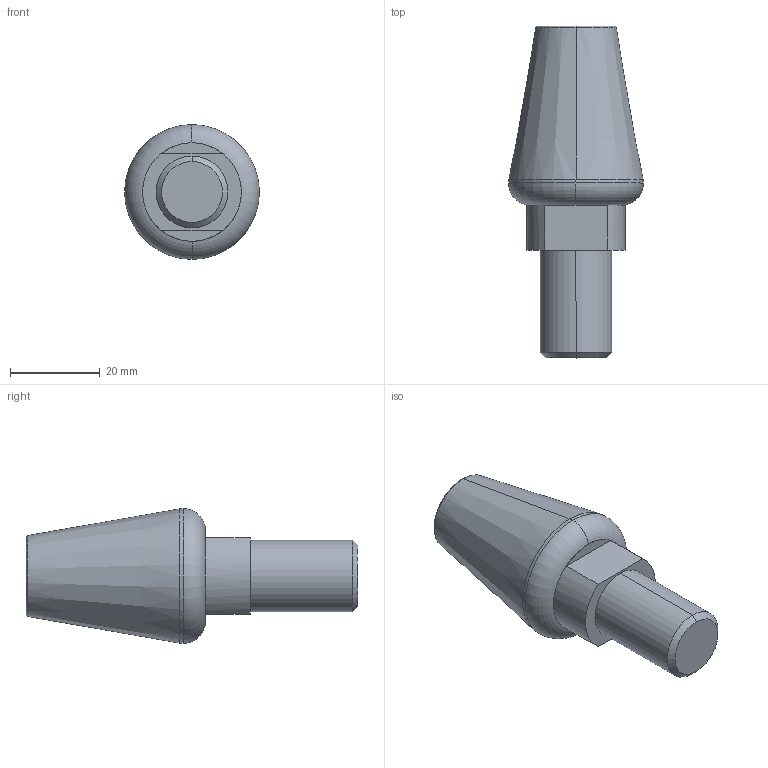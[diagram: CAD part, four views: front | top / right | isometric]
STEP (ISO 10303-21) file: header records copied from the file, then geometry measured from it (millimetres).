
FILE_DESCRIPTION(('CATIA V5 STEP Exchange'),'2;1');
FILE_NAME('C:\Users\Raffaele\Desktop\3D X SITO CF\384F\GSB_OILLESS_M31102016074\STEP-2.03\384F-2.stp','2019-07-05T08:41:07+00:00',('none'),('none'),'CATIA Version 5 Release 20 GA (IN-10)','CATIA V5 STEP AP203','none');
FILE_SCHEMA(('CONFIG_CONTROL_DESIGN'));
Length unit declared in the file: millimetre
Products named in the file (1): 384F-2
Bounding box: 30.08 x 74 x 30.08 mm (x, y, z)
Volume: 27127.1 mm3; surface area: 5902 mm2
Topology: 1 solids, 1 shells, 35 faces, 94 edges, 61 vertices
Faces by surface type: plane 19, cone 6, torus 6, cylinder 4
Entity records: 1106 total; most frequent: CARTESIAN_POINT 199, ORIENTED_EDGE 184, DIRECTION 160, EDGE_CURVE 92, AXIS2_PLACEMENT_3D 84, VERTEX_POINT 61, CIRCLE 48, VECTOR 42
